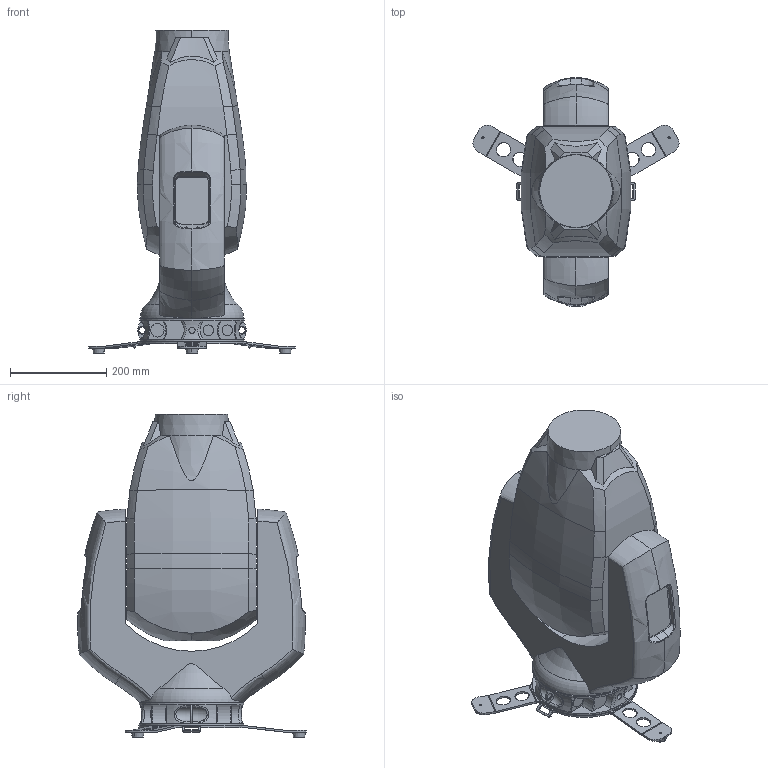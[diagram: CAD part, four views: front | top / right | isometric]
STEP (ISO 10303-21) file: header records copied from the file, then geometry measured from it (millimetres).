
FILE_DESCRIPTION((''),'2;1');
FILE_NAME('GLP-21753_ASM','2025-01-23T10:59:30',('LeovomKolke'),(''),'CREO PARAMETRIC BY PTC INC, 2024133','CREO PARAMETRIC BY PTC INC, 2024133','');
FILE_SCHEMA(('AUTOMOTIVE_DESIGN { 1 0 10303 214 1 1 1 1 }'));
Length unit declared in the file: millimetre
Products named in the file (5): GLP-16343; GLP-16246; GLP-16247; GLP-16249; GLP-21753_ASM
Assembly tree (4 placements, depth 2):
  GLP-21753_ASM
    GLP-16343
    GLP-16246
    GLP-16247
    GLP-16249
Bounding box: 428.62 x 475.09 x 672.7 mm (x, y, z)
Volume: 34421842.7 mm3; surface area: 1118283.6 mm2
Topology: 4 solids, 7 shells, 417 faces, 1135 edges, 749 vertices
Faces by surface type: cylinder 145, plane 120, bspline 60, cone 40, torus 30, revolution 16, extrusion 4, sphere 2
Entity records: 24738 total; most frequent: CARTESIAN_POINT 11494, DIRECTION 2303, ORIENTED_EDGE 2166, EDGE_CURVE 1089, AXIS2_PLACEMENT_3D 889, VERTEX_POINT 702, VECTOR 494, LINE 490
